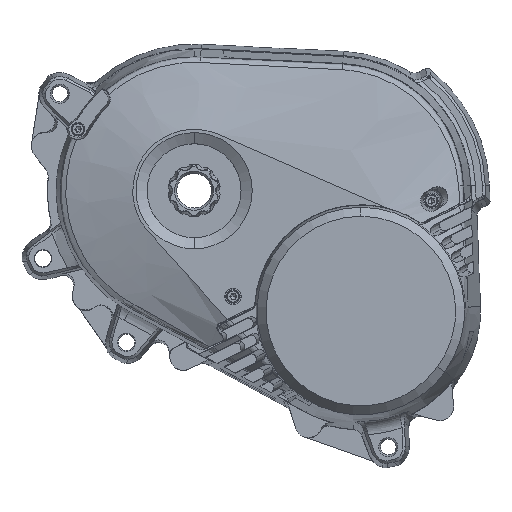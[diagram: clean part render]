
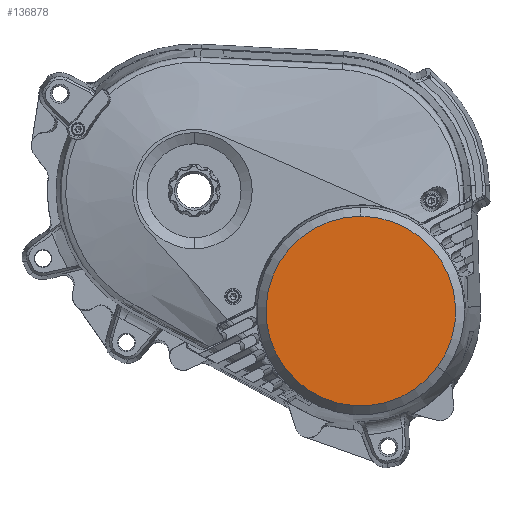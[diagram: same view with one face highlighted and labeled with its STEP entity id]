
A CAD part, front view. The second image highlights one B-rep face of the part: STEP entity #136878.
In plain terms, the highlighted planar face has unit normal (0, -1, 0).
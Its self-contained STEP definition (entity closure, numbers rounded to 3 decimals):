
#824 = EDGE_CURVE ( 'NONE', #66181, #101028, #53862, .T. ) ;
#5603 = AXIS2_PLACEMENT_3D ( 'NONE', #77788, #121419, #23300 ) ;
#7403 = CIRCLE ( 'NONE', #37135, 38.274 ) ;
#13562 = CARTESIAN_POINT ( 'NONE',  ( 98.317, -53.2, -71.002 ) ) ;
#23300 = DIRECTION ( 'NONE',  ( 0., 0., 1. ) ) ;
#28211 = CARTESIAN_POINT ( 'NONE',  ( 67.288, -53.2, -48.594 ) ) ;
#37135 = AXIS2_PLACEMENT_3D ( 'NONE', #28211, #101984, #102691 ) ;
#43437 = FACE_OUTER_BOUND ( 'NONE', #97075, .T. ) ;
#53862 = CIRCLE ( 'NONE', #67572, 38.274 ) ;
#55148 = CARTESIAN_POINT ( 'NONE',  ( 67.288, -53.2, -10.319 ) ) ;
#63524 = DIRECTION ( 'NONE',  ( 0., -1., 0. ) ) ;
#65671 = DIRECTION ( 'NONE',  ( 0., 0., 1. ) ) ;
#66181 = VERTEX_POINT ( 'NONE', #13562 ) ;
#67572 = AXIS2_PLACEMENT_3D ( 'NONE', #130062, #63524, #65671 ) ;
#77788 = CARTESIAN_POINT ( 'NONE',  ( 67.288, -53.2, -48.594 ) ) ;
#86102 = ORIENTED_EDGE ( 'NONE', *, *, #119292, .T. ) ;
#97075 = EDGE_LOOP ( 'NONE', ( #86102, #100661 ) ) ;
#100661 = ORIENTED_EDGE ( 'NONE', *, *, #824, .T. ) ;
#101028 = VERTEX_POINT ( 'NONE', #55148 ) ;
#101984 = DIRECTION ( 'NONE',  ( 0., -1., 0. ) ) ;
#102691 = DIRECTION ( 'NONE',  ( 0., 0., 1. ) ) ;
#119292 = EDGE_CURVE ( 'NONE', #101028, #66181, #7403, .T. ) ;
#121419 = DIRECTION ( 'NONE',  ( 0., 1., 0. ) ) ;
#130062 = CARTESIAN_POINT ( 'NONE',  ( 67.288, -53.2, -48.594 ) ) ;
#132110 = PLANE ( 'NONE',  #5603 ) ;
#136878 = ADVANCED_FACE ( 'NONE', ( #43437 ), #132110, .F. ) ;
